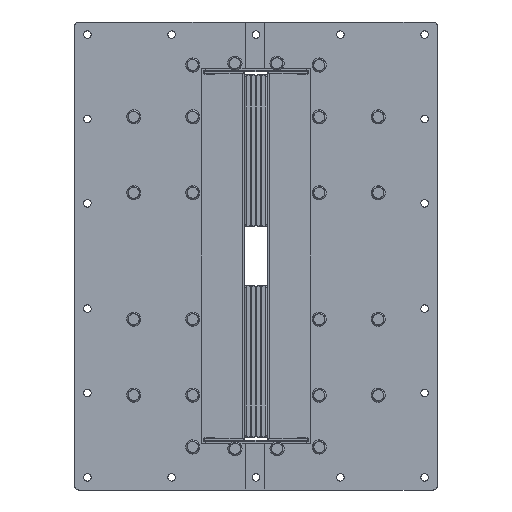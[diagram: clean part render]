
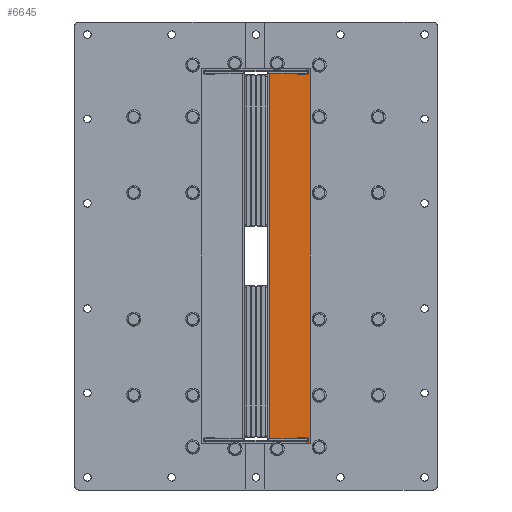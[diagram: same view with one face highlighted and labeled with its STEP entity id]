
A CAD part, left-side view. The second image highlights one B-rep face of the part: STEP entity #6645.
In plain terms, the highlighted planar face has unit normal (-1, 0, 0).
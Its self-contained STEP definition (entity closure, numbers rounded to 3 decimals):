
#5860=AXIS2_PLACEMENT_3D('Plane Axis2P3D',#5857,#5858,#5859) ;
#5994=AXIS2_PLACEMENT_3D('Circle Axis2P3D',#5992,#5993,$) ;
#6056=AXIS2_PLACEMENT_3D('Circle Axis2P3D',#6054,#6055,$) ;
#6325=AXIS2_PLACEMENT_3D('Circle Axis2P3D',#6323,#6324,$) ;
#6373=AXIS2_PLACEMENT_3D('Circle Axis2P3D',#6371,#6372,$) ;
#6539=AXIS2_PLACEMENT_3D('Circle Axis2P3D',#6537,#6538,$) ;
#6548=AXIS2_PLACEMENT_3D('Circle Axis2P3D',#6546,#6547,$) ;
#6557=AXIS2_PLACEMENT_3D('Circle Axis2P3D',#6555,#6556,$) ;
#6566=AXIS2_PLACEMENT_3D('Circle Axis2P3D',#6564,#6565,$) ;
#6575=AXIS2_PLACEMENT_3D('Circle Axis2P3D',#6573,#6574,$) ;
#6584=AXIS2_PLACEMENT_3D('Circle Axis2P3D',#6582,#6583,$) ;
#6593=AXIS2_PLACEMENT_3D('Circle Axis2P3D',#6591,#6592,$) ;
#6602=AXIS2_PLACEMENT_3D('Circle Axis2P3D',#6600,#6601,$) ;
#6611=AXIS2_PLACEMENT_3D('Circle Axis2P3D',#6609,#6610,$) ;
#6620=AXIS2_PLACEMENT_3D('Circle Axis2P3D',#6618,#6619,$) ;
#6629=AXIS2_PLACEMENT_3D('Circle Axis2P3D',#6627,#6628,$) ;
#6638=AXIS2_PLACEMENT_3D('Circle Axis2P3D',#6636,#6637,$) ;
#5857=CARTESIAN_POINT('Axis2P3D Location',(0.,0.,0.)) ;
#5898=CARTESIAN_POINT('Vertex',(0.,-60.,218.5)) ;
#5903=CARTESIAN_POINT('Line Origine',(0.,-60.,229.25)) ;
#5907=CARTESIAN_POINT('Vertex',(0.,-60.,240.)) ;
#5961=CARTESIAN_POINT('Line Origine',(0.,-69.,240.)) ;
#5965=CARTESIAN_POINT('Vertex',(0.,-78.,240.)) ;
#5992=CARTESIAN_POINT('Axis2P3D Location',(0.,-78.,235.)) ;
#5996=CARTESIAN_POINT('Vertex',(0.,-83.,235.)) ;
#6023=CARTESIAN_POINT('Line Origine',(0.,-83.,0.)) ;
#6027=CARTESIAN_POINT('Vertex',(0.,-83.,-235.)) ;
#6054=CARTESIAN_POINT('Axis2P3D Location',(0.,-78.,-235.)) ;
#6058=CARTESIAN_POINT('Vertex',(0.,-78.,-240.)) ;
#6085=CARTESIAN_POINT('Line Origine',(0.,-69.,-240.)) ;
#6089=CARTESIAN_POINT('Vertex',(0.,-60.,-240.)) ;
#6111=CARTESIAN_POINT('Line Origine',(0.,-60.,-229.25)) ;
#6115=CARTESIAN_POINT('Vertex',(0.,-60.,-218.5)) ;
#6150=CARTESIAN_POINT('Vertex',(0.,-60.,217.)) ;
#6153=CARTESIAN_POINT('Line Origine',(0.,-60.,217.75)) ;
#6186=CARTESIAN_POINT('Vertex',(0.,-16.22,217.)) ;
#6189=CARTESIAN_POINT('Line Origine',(0.,-38.11,217.)) ;
#6320=CARTESIAN_POINT('Vertex',(0.,-15.72,216.5)) ;
#6323=CARTESIAN_POINT('Axis2P3D Location',(0.,-16.22,216.5)) ;
#6344=CARTESIAN_POINT('Vertex',(0.,-15.72,-216.5)) ;
#6347=CARTESIAN_POINT('Line Origine',(0.,-15.72,0.)) ;
#6368=CARTESIAN_POINT('Vertex',(0.,-16.22,-217.)) ;
#6371=CARTESIAN_POINT('Axis2P3D Location',(0.,-16.22,-216.5)) ;
#6392=CARTESIAN_POINT('Vertex',(0.,-60.,-217.)) ;
#6395=CARTESIAN_POINT('Line Origine',(0.,-38.11,-217.)) ;
#6412=CARTESIAN_POINT('Line Origine',(0.,-60.,-217.75)) ;
#6537=CARTESIAN_POINT('Axis2P3D Location',(0.,-75.,165.)) ;
#6541=CARTESIAN_POINT('Vertex',(0.,-79.5,165.)) ;
#6543=CARTESIAN_POINT('Vertex',(0.,-70.5,165.)) ;
#6546=CARTESIAN_POINT('Axis2P3D Location',(0.,-75.,165.)) ;
#6555=CARTESIAN_POINT('Axis2P3D Location',(0.,-75.,75.)) ;
#6559=CARTESIAN_POINT('Vertex',(0.,-79.5,75.)) ;
#6561=CARTESIAN_POINT('Vertex',(0.,-70.5,75.)) ;
#6564=CARTESIAN_POINT('Axis2P3D Location',(0.,-75.,75.)) ;
#6573=CARTESIAN_POINT('Axis2P3D Location',(0.,-75.,-75.)) ;
#6577=CARTESIAN_POINT('Vertex',(0.,-79.5,-75.)) ;
#6579=CARTESIAN_POINT('Vertex',(0.,-70.5,-75.)) ;
#6582=CARTESIAN_POINT('Axis2P3D Location',(0.,-75.,-75.)) ;
#6591=CARTESIAN_POINT('Axis2P3D Location',(0.,-75.,-165.)) ;
#6595=CARTESIAN_POINT('Vertex',(0.,-79.5,-165.)) ;
#6597=CARTESIAN_POINT('Vertex',(0.,-70.5,-165.)) ;
#6600=CARTESIAN_POINT('Axis2P3D Location',(0.,-75.,-165.)) ;
#6609=CARTESIAN_POINT('Axis2P3D Location',(0.,-75.,226.5)) ;
#6613=CARTESIAN_POINT('Vertex',(0.,-79.5,226.5)) ;
#6615=CARTESIAN_POINT('Vertex',(0.,-70.5,226.5)) ;
#6618=CARTESIAN_POINT('Axis2P3D Location',(0.,-75.,226.5)) ;
#6627=CARTESIAN_POINT('Axis2P3D Location',(0.,-75.,-226.5)) ;
#6631=CARTESIAN_POINT('Vertex',(0.,-79.5,-226.5)) ;
#6633=CARTESIAN_POINT('Vertex',(0.,-70.5,-226.5)) ;
#6636=CARTESIAN_POINT('Axis2P3D Location',(0.,-75.,-226.5)) ;
#5858=DIRECTION('Axis2P3D Direction',(1.,0.,0.)) ;
#5859=DIRECTION('Axis2P3D XDirection',(0.,1.,0.)) ;
#5904=DIRECTION('Vector Direction',(0.,0.,-1.)) ;
#5962=DIRECTION('Vector Direction',(0.,-1.,0.)) ;
#5993=DIRECTION('Axis2P3D Direction',(1.,0.,0.)) ;
#6024=DIRECTION('Vector Direction',(0.,0.,1.)) ;
#6055=DIRECTION('Axis2P3D Direction',(1.,0.,0.)) ;
#6086=DIRECTION('Vector Direction',(0.,1.,0.)) ;
#6112=DIRECTION('Vector Direction',(0.,0.,-1.)) ;
#6154=DIRECTION('Vector Direction',(0.,0.,-1.)) ;
#6190=DIRECTION('Vector Direction',(0.,1.,0.)) ;
#6324=DIRECTION('Axis2P3D Direction',(1.,0.,0.)) ;
#6348=DIRECTION('Vector Direction',(0.,0.,1.)) ;
#6372=DIRECTION('Axis2P3D Direction',(1.,0.,0.)) ;
#6396=DIRECTION('Vector Direction',(0.,-1.,0.)) ;
#6413=DIRECTION('Vector Direction',(0.,0.,-1.)) ;
#6538=DIRECTION('Axis2P3D Direction',(1.,0.,0.)) ;
#6547=DIRECTION('Axis2P3D Direction',(1.,0.,0.)) ;
#6556=DIRECTION('Axis2P3D Direction',(1.,0.,0.)) ;
#6565=DIRECTION('Axis2P3D Direction',(1.,0.,0.)) ;
#6574=DIRECTION('Axis2P3D Direction',(1.,0.,0.)) ;
#6583=DIRECTION('Axis2P3D Direction',(1.,0.,0.)) ;
#6592=DIRECTION('Axis2P3D Direction',(1.,0.,0.)) ;
#6601=DIRECTION('Axis2P3D Direction',(1.,0.,0.)) ;
#6610=DIRECTION('Axis2P3D Direction',(1.,0.,0.)) ;
#6619=DIRECTION('Axis2P3D Direction',(1.,0.,0.)) ;
#6628=DIRECTION('Axis2P3D Direction',(1.,0.,0.)) ;
#6637=DIRECTION('Axis2P3D Direction',(1.,0.,0.)) ;
#5905=VECTOR('Line Direction',#5904,1.) ;
#5963=VECTOR('Line Direction',#5962,1.) ;
#6025=VECTOR('Line Direction',#6024,1.) ;
#6087=VECTOR('Line Direction',#6086,1.) ;
#6113=VECTOR('Line Direction',#6112,1.) ;
#6155=VECTOR('Line Direction',#6154,1.) ;
#6191=VECTOR('Line Direction',#6190,1.) ;
#6349=VECTOR('Line Direction',#6348,1.) ;
#6397=VECTOR('Line Direction',#6396,1.) ;
#6414=VECTOR('Line Direction',#6413,1.) ;
#6522=ORIENTED_EDGE('',*,*,#6157,.T.) ;
#6523=ORIENTED_EDGE('',*,*,#6193,.T.) ;
#6524=ORIENTED_EDGE('',*,*,#6327,.T.) ;
#6525=ORIENTED_EDGE('',*,*,#6351,.T.) ;
#6526=ORIENTED_EDGE('',*,*,#6375,.T.) ;
#6527=ORIENTED_EDGE('',*,*,#6399,.T.) ;
#6528=ORIENTED_EDGE('',*,*,#6416,.T.) ;
#6529=ORIENTED_EDGE('',*,*,#6117,.F.) ;
#6530=ORIENTED_EDGE('',*,*,#6091,.F.) ;
#6531=ORIENTED_EDGE('',*,*,#6060,.F.) ;
#6532=ORIENTED_EDGE('',*,*,#6029,.F.) ;
#6533=ORIENTED_EDGE('',*,*,#5998,.F.) ;
#6534=ORIENTED_EDGE('',*,*,#5967,.F.) ;
#6535=ORIENTED_EDGE('',*,*,#5909,.F.) ;
#6552=ORIENTED_EDGE('',*,*,#6545,.T.) ;
#6553=ORIENTED_EDGE('',*,*,#6550,.T.) ;
#6570=ORIENTED_EDGE('',*,*,#6563,.T.) ;
#6571=ORIENTED_EDGE('',*,*,#6568,.T.) ;
#6588=ORIENTED_EDGE('',*,*,#6581,.T.) ;
#6589=ORIENTED_EDGE('',*,*,#6586,.T.) ;
#6606=ORIENTED_EDGE('',*,*,#6599,.T.) ;
#6607=ORIENTED_EDGE('',*,*,#6604,.T.) ;
#6624=ORIENTED_EDGE('',*,*,#6617,.T.) ;
#6625=ORIENTED_EDGE('',*,*,#6622,.T.) ;
#6642=ORIENTED_EDGE('',*,*,#6635,.T.) ;
#6643=ORIENTED_EDGE('',*,*,#6640,.T.) ;
#6554=FACE_BOUND('',#6551,.T.) ;
#6572=FACE_BOUND('',#6569,.T.) ;
#6590=FACE_BOUND('',#6587,.T.) ;
#6608=FACE_BOUND('',#6605,.T.) ;
#6626=FACE_BOUND('',#6623,.T.) ;
#6644=FACE_BOUND('',#6641,.T.) ;
#6645=ADVANCED_FACE('Laterale(L3)',(#6536,#6554,#6572,#6590,#6608,#6626,#6644),#5861,.F.) ;
#5995=CIRCLE('generated circle',#5994,5.) ;
#6057=CIRCLE('generated circle',#6056,5.) ;
#6326=CIRCLE('generated circle',#6325,0.5) ;
#6374=CIRCLE('generated circle',#6373,0.5) ;
#6540=CIRCLE('generated circle',#6539,4.5) ;
#6549=CIRCLE('generated circle',#6548,4.5) ;
#6558=CIRCLE('generated circle',#6557,4.5) ;
#6567=CIRCLE('generated circle',#6566,4.5) ;
#6576=CIRCLE('generated circle',#6575,4.5) ;
#6585=CIRCLE('generated circle',#6584,4.5) ;
#6594=CIRCLE('generated circle',#6593,4.5) ;
#6603=CIRCLE('generated circle',#6602,4.5) ;
#6612=CIRCLE('generated circle',#6611,4.5) ;
#6621=CIRCLE('generated circle',#6620,4.5) ;
#6630=CIRCLE('generated circle',#6629,4.5) ;
#6639=CIRCLE('generated circle',#6638,4.5) ;
#5909=EDGE_CURVE('',#5899,#5908,#5906,.F.) ;
#5967=EDGE_CURVE('',#5908,#5966,#5964,.T.) ;
#5998=EDGE_CURVE('',#5966,#5997,#5995,.T.) ;
#6029=EDGE_CURVE('',#5997,#6028,#6026,.F.) ;
#6060=EDGE_CURVE('',#6028,#6059,#6057,.T.) ;
#6091=EDGE_CURVE('',#6059,#6090,#6088,.T.) ;
#6117=EDGE_CURVE('',#6090,#6116,#6114,.F.) ;
#6157=EDGE_CURVE('',#5899,#6151,#6156,.T.) ;
#6193=EDGE_CURVE('',#6151,#6187,#6192,.T.) ;
#6327=EDGE_CURVE('',#6187,#6321,#6326,.F.) ;
#6351=EDGE_CURVE('',#6321,#6345,#6350,.F.) ;
#6375=EDGE_CURVE('',#6345,#6369,#6374,.F.) ;
#6399=EDGE_CURVE('',#6369,#6393,#6398,.T.) ;
#6416=EDGE_CURVE('',#6393,#6116,#6415,.T.) ;
#6545=EDGE_CURVE('',#6542,#6544,#6540,.T.) ;
#6550=EDGE_CURVE('',#6544,#6542,#6549,.T.) ;
#6563=EDGE_CURVE('',#6560,#6562,#6558,.T.) ;
#6568=EDGE_CURVE('',#6562,#6560,#6567,.T.) ;
#6581=EDGE_CURVE('',#6578,#6580,#6576,.T.) ;
#6586=EDGE_CURVE('',#6580,#6578,#6585,.T.) ;
#6599=EDGE_CURVE('',#6596,#6598,#6594,.T.) ;
#6604=EDGE_CURVE('',#6598,#6596,#6603,.T.) ;
#6617=EDGE_CURVE('',#6614,#6616,#6612,.T.) ;
#6622=EDGE_CURVE('',#6616,#6614,#6621,.T.) ;
#6635=EDGE_CURVE('',#6632,#6634,#6630,.T.) ;
#6640=EDGE_CURVE('',#6634,#6632,#6639,.T.) ;
#6521=EDGE_LOOP('',(#6522,#6523,#6524,#6525,#6526,#6527,#6528,#6529,#6530,#6531,#6532,#6533,#6534,#6535)) ;
#6551=EDGE_LOOP('',(#6552,#6553)) ;
#6569=EDGE_LOOP('',(#6570,#6571)) ;
#6587=EDGE_LOOP('',(#6588,#6589)) ;
#6605=EDGE_LOOP('',(#6606,#6607)) ;
#6623=EDGE_LOOP('',(#6624,#6625)) ;
#6641=EDGE_LOOP('',(#6642,#6643)) ;
#6536=FACE_OUTER_BOUND('',#6521,.T.) ;
#5906=LINE('Line',#5903,#5905) ;
#5964=LINE('Line',#5961,#5963) ;
#6026=LINE('Line',#6023,#6025) ;
#6088=LINE('Line',#6085,#6087) ;
#6114=LINE('Line',#6111,#6113) ;
#6156=LINE('Line',#6153,#6155) ;
#6192=LINE('Line',#6189,#6191) ;
#6350=LINE('Line',#6347,#6349) ;
#6398=LINE('Line',#6395,#6397) ;
#6415=LINE('Line',#6412,#6414) ;
#5861=PLANE('',#5860) ;
#5899=VERTEX_POINT('',#5898) ;
#5908=VERTEX_POINT('',#5907) ;
#5966=VERTEX_POINT('',#5965) ;
#5997=VERTEX_POINT('',#5996) ;
#6028=VERTEX_POINT('',#6027) ;
#6059=VERTEX_POINT('',#6058) ;
#6090=VERTEX_POINT('',#6089) ;
#6116=VERTEX_POINT('',#6115) ;
#6151=VERTEX_POINT('',#6150) ;
#6187=VERTEX_POINT('',#6186) ;
#6321=VERTEX_POINT('',#6320) ;
#6345=VERTEX_POINT('',#6344) ;
#6369=VERTEX_POINT('',#6368) ;
#6393=VERTEX_POINT('',#6392) ;
#6542=VERTEX_POINT('',#6541) ;
#6544=VERTEX_POINT('',#6543) ;
#6560=VERTEX_POINT('',#6559) ;
#6562=VERTEX_POINT('',#6561) ;
#6578=VERTEX_POINT('',#6577) ;
#6580=VERTEX_POINT('',#6579) ;
#6596=VERTEX_POINT('',#6595) ;
#6598=VERTEX_POINT('',#6597) ;
#6614=VERTEX_POINT('',#6613) ;
#6616=VERTEX_POINT('',#6615) ;
#6632=VERTEX_POINT('',#6631) ;
#6634=VERTEX_POINT('',#6633) ;
